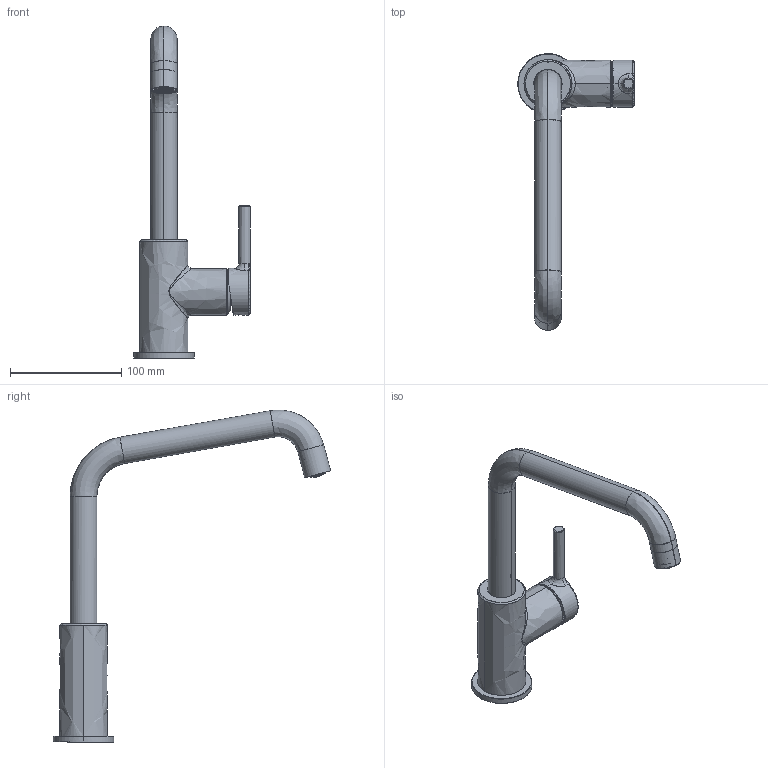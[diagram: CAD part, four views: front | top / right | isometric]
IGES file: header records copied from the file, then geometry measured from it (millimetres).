
Global section: file name: F:\_CONVERSIONE_CAD_2024_2025\PACCHETTI_2026\NUOVI_PACCHETTI_LUGLIO\PRIORITY_3\3D001_Taps_Lina_U-Swivel-Spout\3D001_Taps_Lina_U-Swivel-Spout.igs; native system: Rhinoceros ( May  6 2026 ); preprocessor: Trout Lake IGES 012 May  6 2026; date: 260805.102437; units: millimetre
Bounding box: 104.35 x 248.59 x 297.79 mm (x, y, z)
Surface area: 120086.6 mm2 (no closed solid volume)
Topology: 0 solids, 0 shells, 2072 faces, 13406 edges, 13388 vertices
Faces by surface type: bspline 2072
